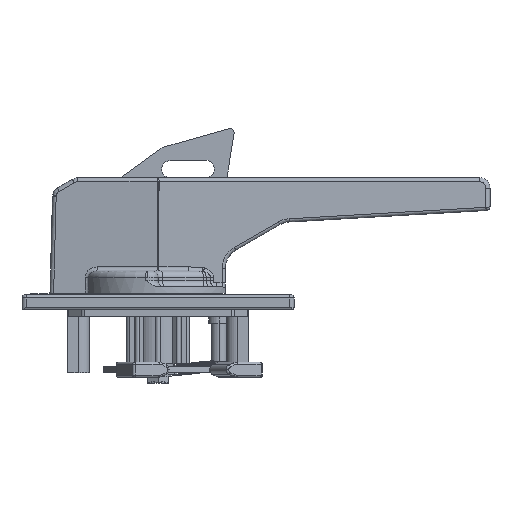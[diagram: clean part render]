
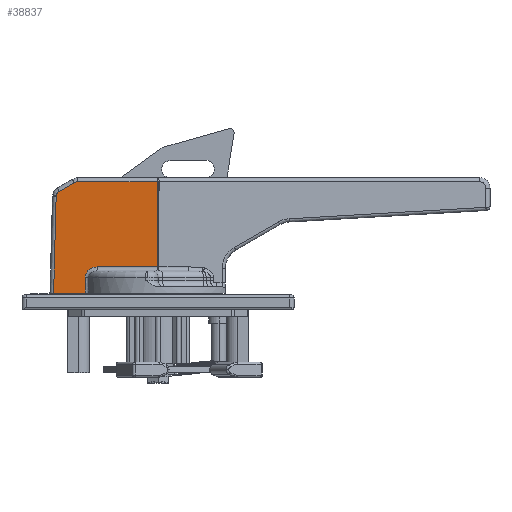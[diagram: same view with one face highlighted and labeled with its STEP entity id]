
A CAD part, front view. The second image highlights one B-rep face of the part: STEP entity #38837.
In plain terms, the highlighted planar face has unit normal (-0.131, -0.991, 0.026).
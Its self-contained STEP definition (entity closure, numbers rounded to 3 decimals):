
#22839 = LINE ( 'NONE', #24671, #22842 ) ;
#22842 = VECTOR ( 'NONE', #24672, 1000. ) ;
#24597 = CARTESIAN_POINT ( 'NONE',  ( -46.406, -4.955, 55.74 ) ) ;
#24598 = CARTESIAN_POINT ( 'NONE',  ( -46.917, -4.907, 55.028 ) ) ;
#24602 = CARTESIAN_POINT ( 'NONE',  ( -45.647, -5.043, 56.178 ) ) ;
#24603 = CARTESIAN_POINT ( 'NONE',  ( -47.089, -4.907, 54.17 ) ) ;
#24671 = CARTESIAN_POINT ( 'NONE',  ( 0.855, -12.443, 7.803 ) ) ;
#24672 = DIRECTION ( 'NONE',  ( 0.001, 0.026, 1. ) ) ;
#27146 = AXIS2_PLACEMENT_3D ( 'NONE', #31321, #31322, #31323 ) ;
#28070 = CARTESIAN_POINT ( 'NONE',  ( -45.647, -5.043, 56.178 ) ) ;
#28071 = CARTESIAN_POINT ( 'NONE',  ( -47.089, -4.907, 54.17 ) ) ;
#28080 = CARTESIAN_POINT ( 'NONE',  ( 0.871, -12.117, 20.248 ) ) ;
#28091 = CARTESIAN_POINT ( 'NONE',  ( 0.922, -11.055, 60.702 ) ) ;
#28280 = CARTESIAN_POINT ( 'NONE',  ( -48.347, -5.966, 7.8 ) ) ;
#28282 = CARTESIAN_POINT ( 'NONE',  ( -33.2, -7.96, 7.8 ) ) ;
#28292 = CARTESIAN_POINT ( 'NONE',  ( -47.146, -4.913, 53.658 ) ) ;
#28299 = CARTESIAN_POINT ( 'NONE',  ( -37.007, -6.061, 60.702 ) ) ;
#28329 = CARTESIAN_POINT ( 'NONE',  ( -38.507, -5.875, 60.3 ) ) ;
#28330 = CARTESIAN_POINT ( 'NONE',  ( -33.273, -7.754, 15.248 ) ) ;
#28332 = CARTESIAN_POINT ( 'NONE',  ( -27.652, -8.362, 20.248 ) ) ;
#29883 = FACE_OUTER_BOUND ( 'NONE', #45535, .T. ) ;
#31302 = PLANE ( 'NONE',  #27146 ) ;
#31321 = CARTESIAN_POINT ( 'NONE',  ( -0.691, -12.24, 7.8 ) ) ;
#31322 = DIRECTION ( 'NONE',  ( -0.13, -0.991, 0.026 ) ) ;
#31323 = DIRECTION ( 'NONE',  ( 0.991, -0.131, 0. ) ) ;
#34349 = EDGE_CURVE ( 'NONE', #36131, #36132, #65975, .T. ) ;
#34370 = EDGE_CURVE ( 'NONE', #36141, #36152, #22839, .T. ) ;
#36131 = VERTEX_POINT ( 'NONE', #28070 ) ;
#36132 = VERTEX_POINT ( 'NONE', #28071 ) ;
#36141 = VERTEX_POINT ( 'NONE', #28080 ) ;
#36152 = VERTEX_POINT ( 'NONE', #28091 ) ;
#36341 = VERTEX_POINT ( 'NONE', #28280 ) ;
#36343 = VERTEX_POINT ( 'NONE', #28282 ) ;
#36353 = VERTEX_POINT ( 'NONE', #28292 ) ;
#36360 = VERTEX_POINT ( 'NONE', #28299 ) ;
#36390 = VERTEX_POINT ( 'NONE', #28329 ) ;
#36391 = VERTEX_POINT ( 'NONE', #28330 ) ;
#36393 = VERTEX_POINT ( 'NONE', #28332 ) ;
#38837 = ADVANCED_FACE ( 'NONE', ( #29883 ), #31302, .T. ) ;
#45535 = EDGE_LOOP ( 'NONE', ( #48469, #48470, #48471, #48472, #48473, #48474, #48475, #48476, #48477, #48478, #48479 ) ) ;
#47776 = EDGE_CURVE ( 'NONE', #36343, #36341, #57918, .T. ) ;
#47825 = EDGE_CURVE ( 'NONE', #36152, #36360, #57976, .T. ) ;
#47826 = EDGE_CURVE ( 'NONE', #36360, #36390, #53213, .T. ) ;
#47827 = EDGE_CURVE ( 'NONE', #36390, #36131, #57978, .T. ) ;
#47828 = EDGE_CURVE ( 'NONE', #36132, #36353, #53214, .T. ) ;
#47829 = EDGE_CURVE ( 'NONE', #36353, #36341, #57980, .T. ) ;
#47830 = EDGE_CURVE ( 'NONE', #36343, #36391, #53215, .T. ) ;
#47831 = EDGE_CURVE ( 'NONE', #36391, #36393, #53216, .T. ) ;
#47832 = EDGE_CURVE ( 'NONE', #36393, #36141, #57983, .T. ) ;
#48469 = ORIENTED_EDGE ( 'NONE', *, *, #34370, .T. ) ;
#48470 = ORIENTED_EDGE ( 'NONE', *, *, #47825, .T. ) ;
#48471 = ORIENTED_EDGE ( 'NONE', *, *, #47826, .T. ) ;
#48472 = ORIENTED_EDGE ( 'NONE', *, *, #47827, .T. ) ;
#48473 = ORIENTED_EDGE ( 'NONE', *, *, #34349, .T. ) ;
#48474 = ORIENTED_EDGE ( 'NONE', *, *, #47828, .T. ) ;
#48475 = ORIENTED_EDGE ( 'NONE', *, *, #47829, .T. ) ;
#48476 = ORIENTED_EDGE ( 'NONE', *, *, #47776, .F. ) ;
#48477 = ORIENTED_EDGE ( 'NONE', *, *, #47830, .T. ) ;
#48478 = ORIENTED_EDGE ( 'NONE', *, *, #47831, .T. ) ;
#48479 = ORIENTED_EDGE ( 'NONE', *, *, #47832, .T. ) ;
#53213 =( BOUNDED_CURVE ( )  B_SPLINE_CURVE ( 3, ( #60516, #60515, #60523, #60524 ),
 .UNSPECIFIED., .F., .F. ) 
 B_SPLINE_CURVE_WITH_KNOTS ( ( 4, 4 ),
 ( 1.769, 2.292 ),
 .UNSPECIFIED. ) 
 CURVE ( )  GEOMETRIC_REPRESENTATION_ITEM ( )  RATIONAL_B_SPLINE_CURVE ( ( 1., 0.977, 0.977, 1. ) ) 
 REPRESENTATION_ITEM ( '' )  );
#53214 =( BOUNDED_CURVE ( )  B_SPLINE_CURVE ( 3, ( #60522, #60521, #60529, #60530 ),
 .UNSPECIFIED., .F., .F. ) 
 B_SPLINE_CURVE_WITH_KNOTS ( ( 4, 4 ),
 ( 0., 0.172 ),
 .UNSPECIFIED. ) 
 CURVE ( )  GEOMETRIC_REPRESENTATION_ITEM ( )  RATIONAL_B_SPLINE_CURVE ( ( 1., 0.998, 0.998, 1. ) ) 
 REPRESENTATION_ITEM ( '' )  );
#53215 =( BOUNDED_CURVE ( )  B_SPLINE_CURVE ( 3, ( #60528, #60527, #60535, #60536 ),
 .UNSPECIFIED., .F., .F. ) 
 B_SPLINE_CURVE_WITH_KNOTS ( ( 4, 4 ),
 ( 1.093, 1.099 ),
 .UNSPECIFIED. ) 
 CURVE ( )  GEOMETRIC_REPRESENTATION_ITEM ( )  RATIONAL_B_SPLINE_CURVE ( ( 1., 1., 1., 1. ) ) 
 REPRESENTATION_ITEM ( '' )  );
#53216 = B_SPLINE_CURVE_WITH_KNOTS ( 'NONE', 3,
 ( #60534, #60533, #60539, #60540, #60541, #60542, #60543, #60544, #60545, #60546, #60547, #60548, #60549, #60550, #60551, #60552, #60553, #60554, #60555, #60556 ),
 .UNSPECIFIED., .F., .F.,
 ( 4, 2, 2, 2, 2, 2, 2, 2, 2, 4 ),
 ( 0., 0.001, 0.002, 0.002, 0.003, 0.004, 0.005, 0.006, 0.007, 0.008 ),
 .UNSPECIFIED. ) ;
#57918 = LINE ( 'NONE', #60352, #57921 ) ;
#57921 = VECTOR ( 'NONE', #60354, 1000. ) ;
#57976 = LINE ( 'NONE', #60519, #57977 ) ;
#57977 = VECTOR ( 'NONE', #60520, 1000. ) ;
#57978 = LINE ( 'NONE', #60525, #57979 ) ;
#57979 = VECTOR ( 'NONE', #60526, 1000. ) ;
#57980 = LINE ( 'NONE', #60531, #57981 ) ;
#57981 = VECTOR ( 'NONE', #60532, 1000. ) ;
#57983 = LINE ( 'NONE', #60557, #57984 ) ;
#57984 = VECTOR ( 'NONE', #60558, 1000. ) ;
#60352 = CARTESIAN_POINT ( 'NONE',  ( -0.691, -12.24, 7.8 ) ) ;
#60354 = DIRECTION ( 'NONE',  ( -0.991, 0.131, 0. ) ) ;
#60515 = CARTESIAN_POINT ( 'NONE',  ( -37.536, -5.992, 60.702 ) ) ;
#60516 = CARTESIAN_POINT ( 'NONE',  ( -37.007, -6.061, 60.702 ) ) ;
#60519 = CARTESIAN_POINT ( 'NONE',  ( -36.752, -6.095, 60.702 ) ) ;
#60520 = DIRECTION ( 'NONE',  ( -0.991, 0.131, 0. ) ) ;
#60521 = CARTESIAN_POINT ( 'NONE',  ( -47.123, -4.907, 54.001 ) ) ;
#60522 = CARTESIAN_POINT ( 'NONE',  ( -47.089, -4.907, 54.17 ) ) ;
#60523 = CARTESIAN_POINT ( 'NONE',  ( -38.048, -5.928, 60.565 ) ) ;
#60524 = CARTESIAN_POINT ( 'NONE',  ( -38.507, -5.875, 60.3 ) ) ;
#60525 = CARTESIAN_POINT ( 'NONE',  ( -45.488, -5.062, 56.27 ) ) ;
#60526 = DIRECTION ( 'NONE',  ( -0.862, 0.1, -0.497 ) ) ;
#60527 = CARTESIAN_POINT ( 'NONE',  ( -33.224, -7.891, 10.279 ) ) ;
#60528 = CARTESIAN_POINT ( 'NONE',  ( -33.2, -7.96, 7.8 ) ) ;
#60529 = CARTESIAN_POINT ( 'NONE',  ( -47.142, -4.909, 53.83 ) ) ;
#60530 = CARTESIAN_POINT ( 'NONE',  ( -47.146, -4.913, 53.658 ) ) ;
#60531 = CARTESIAN_POINT ( 'NONE',  ( -48.318, -5.94, 8.903 ) ) ;
#60532 = DIRECTION ( 'NONE',  ( -0.026, -0.023, -0.999 ) ) ;
#60533 = CARTESIAN_POINT ( 'NONE',  ( -33.277, -7.744, 15.603 ) ) ;
#60534 = CARTESIAN_POINT ( 'NONE',  ( -33.273, -7.754, 15.248 ) ) ;
#60535 = CARTESIAN_POINT ( 'NONE',  ( -33.249, -7.822, 12.761 ) ) ;
#60536 = CARTESIAN_POINT ( 'NONE',  ( -33.273, -7.754, 15.248 ) ) ;
#60539 = CARTESIAN_POINT ( 'NONE',  ( -33.239, -7.74, 15.95 ) ) ;
#60540 = CARTESIAN_POINT ( 'NONE',  ( -33.123, -7.741, 16.459 ) ) ;
#60541 = CARTESIAN_POINT ( 'NONE',  ( -33.075, -7.743, 16.627 ) ) ;
#60542 = CARTESIAN_POINT ( 'NONE',  ( -32.958, -7.75, 16.959 ) ) ;
#60543 = CARTESIAN_POINT ( 'NONE',  ( -32.889, -7.755, 17.124 ) ) ;
#60544 = CARTESIAN_POINT ( 'NONE',  ( -32.658, -7.772, 17.597 ) ) ;
#60545 = CARTESIAN_POINT ( 'NONE',  ( -32.472, -7.789, 17.891 ) ) ;
#60546 = CARTESIAN_POINT ( 'NONE',  ( -32.038, -7.832, 18.437 ) ) ;
#60547 = CARTESIAN_POINT ( 'NONE',  ( -31.787, -7.858, 18.692 ) ) ;
#60548 = CARTESIAN_POINT ( 'NONE',  ( -31.253, -7.917, 19.136 ) ) ;
#60549 = CARTESIAN_POINT ( 'NONE',  ( -30.966, -7.949, 19.33 ) ) ;
#60550 = CARTESIAN_POINT ( 'NONE',  ( -30.359, -8.021, 19.665 ) ) ;
#60551 = CARTESIAN_POINT ( 'NONE',  ( -30.034, -8.06, 19.807 ) ) ;
#60552 = CARTESIAN_POINT ( 'NONE',  ( -29.375, -8.141, 20.029 ) ) ;
#60553 = CARTESIAN_POINT ( 'NONE',  ( -29.038, -8.183, 20.111 ) ) ;
#60554 = CARTESIAN_POINT ( 'NONE',  ( -28.353, -8.27, 20.22 ) ) ;
#60555 = CARTESIAN_POINT ( 'NONE',  ( -28.003, -8.315, 20.248 ) ) ;
#60556 = CARTESIAN_POINT ( 'NONE',  ( -27.652, -8.362, 20.248 ) ) ;
#60557 = CARTESIAN_POINT ( 'NONE',  ( -0.648, -11.917, 20.248 ) ) ;
#60558 = DIRECTION ( 'NONE',  ( 0.991, -0.131, 0. ) ) ;
#65975 =( BOUNDED_CURVE ( )  B_SPLINE_CURVE ( 3, ( #24602, #24597, #24598, #24603 ),
 .UNSPECIFIED., .F., .F. ) 
 B_SPLINE_CURVE_WITH_KNOTS ( ( 4, 4 ),
 ( 5.434, 6.283 ),
 .UNSPECIFIED. ) 
 CURVE ( )  GEOMETRIC_REPRESENTATION_ITEM ( )  RATIONAL_B_SPLINE_CURVE ( ( 1., 0.941, 0.941, 1. ) ) 
 REPRESENTATION_ITEM ( '' )  );
